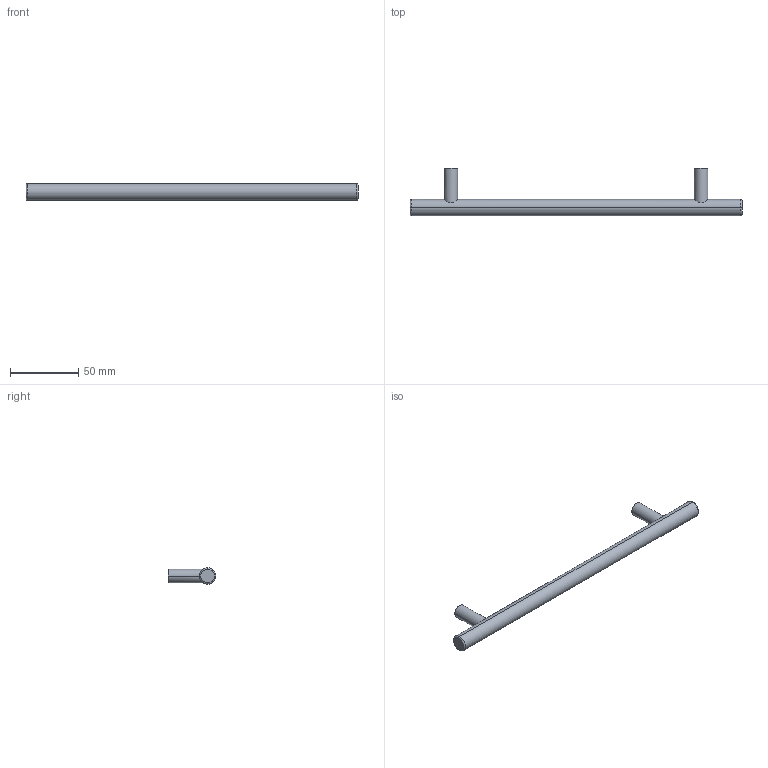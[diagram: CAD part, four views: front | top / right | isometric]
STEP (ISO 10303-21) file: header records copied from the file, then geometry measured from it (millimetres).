
FILE_DESCRIPTION( ( '' ), '1' );
FILE_NAME( 'C:/Documents and Settings/Sachin/Desktop/Sheet 10_1/stp/9070746.stp', '2013-10-22T12:30:57', ( '' ), ( '' ), ' ', ' ', ' ' );
FILE_SCHEMA( ( 'CONFIG_CONTROL_DESIGN' ) );
Length unit declared in the file: millimetre
Products named in the file (1): 1
Bounding box: 244 x 35 x 12 mm (x, y, z)
Volume: 31083.2 mm3; surface area: 11096.4 mm2
Topology: 1 solids, 1 shells, 20 faces, 44 edges, 30 vertices
Faces by surface type: cylinder 10, plane 6, torus 4
Entity records: 738 total; most frequent: CARTESIAN_POINT 229, DIRECTION 108, ORIENTED_EDGE 88, AXIS2_PLACEMENT_3D 49, EDGE_CURVE 44, VERTEX_POINT 30, CIRCLE 28, EDGE_LOOP 24
